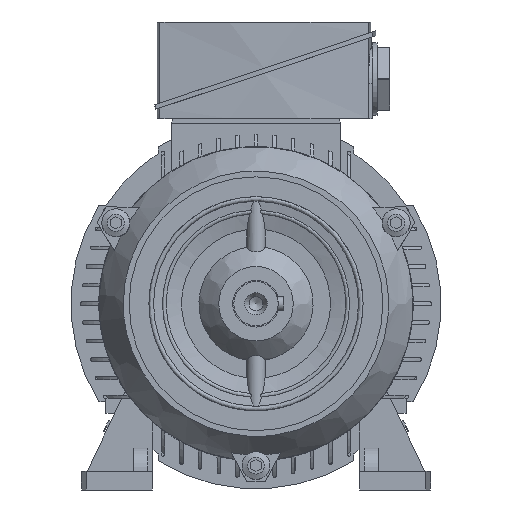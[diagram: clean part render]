
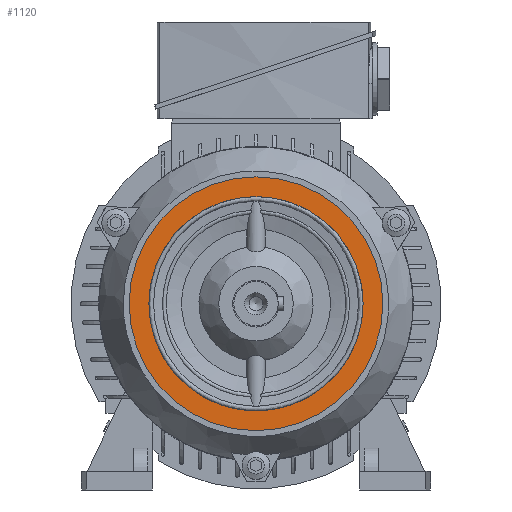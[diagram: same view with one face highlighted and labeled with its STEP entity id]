
A CAD part, left-side view. The second image highlights one B-rep face of the part: STEP entity #1120.
In plain terms, the highlighted planar face has unit normal (-1, 0, 0).
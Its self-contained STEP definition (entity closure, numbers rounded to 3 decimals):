
#1120 = ADVANCED_FACE ( 'NONE', ( #18390, #19182 ), #24472, .T. ) ;
#2314 = CARTESIAN_POINT ( 'NONE',  ( -17.5, 49.75, 0. ) ) ;
#4779 = DIRECTION ( 'NONE',  ( 0., 0., 1. ) ) ;
#6997 = ORIENTED_EDGE ( 'NONE', *, *, #13430, .T. ) ;
#8165 = CARTESIAN_POINT ( 'NONE',  ( -17.5, 0., 0. ) ) ;
#9723 = ORIENTED_EDGE ( 'NONE', *, *, #12286, .T. ) ;
#10594 = EDGE_LOOP ( 'NONE', ( #6997 ) ) ;
#10682 = DIRECTION ( 'NONE',  ( 0., 0., -1. ) ) ;
#11491 = CARTESIAN_POINT ( 'NONE',  ( -17.5, 0., -46. ) ) ;
#11741 = VERTEX_POINT ( 'NONE', #13980 ) ;
#12236 = DIRECTION ( 'NONE',  ( -1., 0., 0. ) ) ;
#12268 = CIRCLE ( 'NONE', #23559, 54.5 ) ;
#12286 = EDGE_CURVE ( 'NONE', #24912, #24912, #31504, .T. ) ;
#13430 = EDGE_CURVE ( 'NONE', #11741, #11741, #12268, .T. ) ;
#13980 = CARTESIAN_POINT ( 'NONE',  ( -17.5, 0., 54.5 ) ) ;
#16292 = EDGE_LOOP ( 'NONE', ( #9723 ) ) ;
#18390 = FACE_OUTER_BOUND ( 'NONE', #10594, .T. ) ;
#19182 = FACE_BOUND ( 'NONE', #16292, .T. ) ;
#19624 = DIRECTION ( 'NONE',  ( -1., 0., 0. ) ) ;
#23198 = AXIS2_PLACEMENT_3D ( 'NONE', #2314, #19624, #4779 ) ;
#23559 = AXIS2_PLACEMENT_3D ( 'NONE', #27059, #12236, #29571 ) ;
#24472 = PLANE ( 'NONE',  #23198 ) ;
#24912 = VERTEX_POINT ( 'NONE', #11491 ) ;
#25521 = DIRECTION ( 'NONE',  ( 1., 0., 0. ) ) ;
#25803 = AXIS2_PLACEMENT_3D ( 'NONE', #8165, #25521, #10682 ) ;
#27059 = CARTESIAN_POINT ( 'NONE',  ( -17.5, 0., 0. ) ) ;
#29571 = DIRECTION ( 'NONE',  ( 0., 0., 1. ) ) ;
#31504 = CIRCLE ( 'NONE', #25803, 46. ) ;
